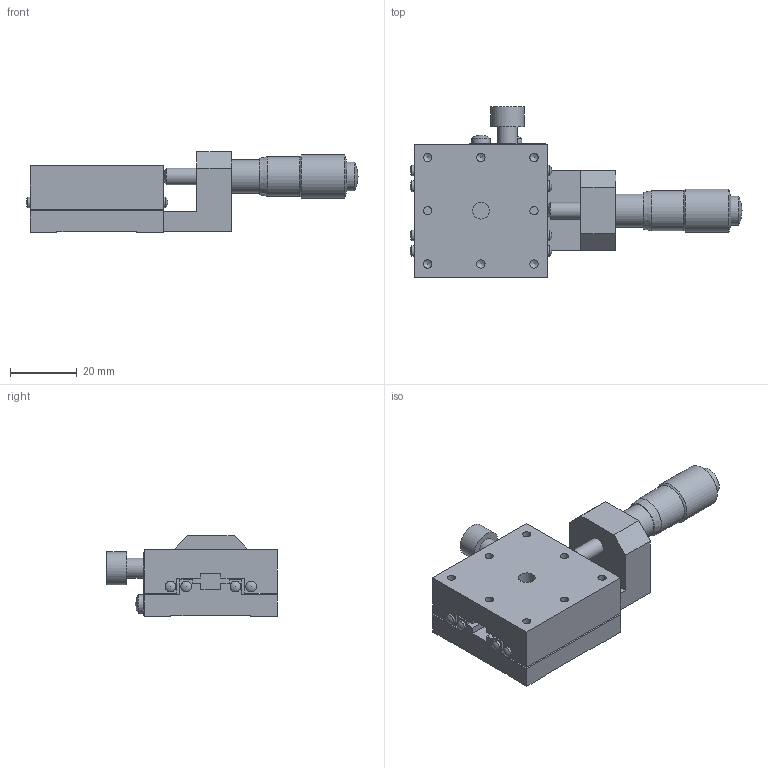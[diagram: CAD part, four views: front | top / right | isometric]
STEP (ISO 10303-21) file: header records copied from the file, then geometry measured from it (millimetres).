
FILE_DESCRIPTION( ( 'STEP AP214' ), '1' );
FILE_NAME( 'C:/Project/3D_B11-40A-配布-070508.stp', '2007-05-08T10:41:53', ( ' ' ), ( ' ' ), 'XStep 1.0', ' ', ' ' );
FILE_SCHEMA( ( 'automotive_design' ) );
Length unit declared in the file: millimetre
Products named in the file (3): 1; 2; 3
Bounding box: 99.8 x 51.3 x 24.3 mm (x, y, z)
Volume: 39453.2 mm3; surface area: 18626.4 mm2
Topology: 3 solids, 3 shells, 143 faces, 379 edges, 251 vertices
Faces by surface type: plane 71, cylinder 51, sphere 12, cone 9
Full cylindrical faces by diameter (mm): 2.5 x16, 3 x1, 3.2 x8, 3.5 x4, 5 x3, 5.6 x2, 6 x5, 8.6 x1, 10 x2, 10.5 x1, 12 x1, 13 x1
Entity records: 4934 total; most frequent: DIRECTION 654, CARTESIAN_POINT 624, ORIENTED_EDGE 534, EDGE_CURVE 267, AXIS2_PLACEMENT_3D 241, EDGE_LOOP 236, VERTEX_POINT 211, FACE_OUTER_BOUND 188
